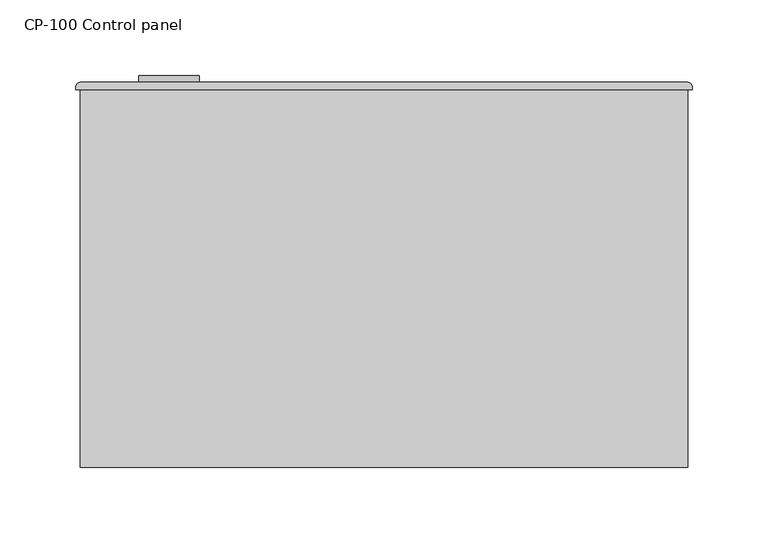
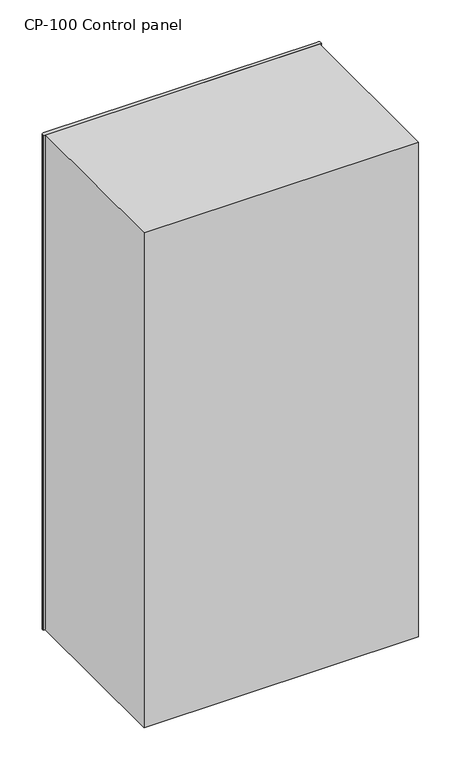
"""IFC4 building model written with IfcOpenShell, lengths in millimetres: proxy geometry, CP-100_Control_Panel_Wallmount_BIM_Model : CP-100 Control panel."""

from ifc_helpers import new_model, si_unit, point, frame, frame_2d, origin, place, context, project, spatial, polyline, circle_curve, trimmed, segment, composite_curve, outline, extrude, source, transform, mapped, element, save


def cp_100_control_panel_810ad4ae(model_context):
    return source(origin(), model_context, "Body", "SweptSolid", [
        extrude(outline(composite_curve([segment(trimmed(circle_curve(frame_2d((841.0, -16.7274277)), 20.0), [point((841.0, -36.7274277))], [point((841.0, 3.2725723))], False, "CARTESIAN"), True, "CONTINUOUS"), segment(trimmed(circle_curve(frame_2d((841.0, -16.7274277)), 20.0), [point((841.0, 3.2725723))], [point((841.0, -36.7274277))], False, "CARTESIAN"), True, "CONTINUOUS")], self_intersect=False), holes=[polyline([(848.2746144, -18.5031745), (848.2746144, -13.5031745), (833.2746144, -13.5031745), (833.2746144, -18.5031745), (848.2746144, -18.5031745)])]), frame((0.0, 324.2502207, 0.0), z_axis=(0.0, 1.0, 0.0), x_axis=(0.0, 0.0, 1.0)), (0.0, 0.0, 1.0), 4.5606129),
        extrude(outline(composite_curve([segment(trimmed(circle_curve(frame_2d((325.0, 321.4983329)), 3.0), [point((325.0, 324.4983329))], [point((328.0, 321.4983329))], False, "CARTESIAN"), True, "CONTINUOUS"), segment(polyline([(328.0, 321.4983329), (328.0, 319.616618), (-78.0, 319.616618), (-78.0, 321.4983329)]), True, "CONTINUOUS"), segment(trimmed(circle_curve(frame_2d((-75.0, 321.4983329)), 3.0), [point((-78.0, 321.4983329))], [point((-75.0, 324.4983329))], False, "CARTESIAN"), True, "CONTINUOUS"), segment(polyline([(-75.0, 324.4983329), (325.0, 324.4983329)]), True, "CONTINUOUS")], self_intersect=False)), frame((0.0, 0.0, 460.0), z_axis=(0.0, 0.0, 1.0), x_axis=(1.0, 0.0, 0.0)), (0.0, 0.0, 1.0), 762.0),
        extrude(outline(polyline([(325.0, 319.616618), (325.0, 70.4983329), (-75.0, 70.4983329), (-75.0, 319.616618), (325.0, 319.616618)])), frame((0.0, 0.0, 460.0), z_axis=(0.0, 0.0, 1.0), x_axis=(1.0, 0.0, 0.0)), (0.0, 0.0, 1.0), 762.0),
    ])


if __name__ == "__main__":
    model = new_model("IFC4")
    model_context = context("Model", 3, world=origin())
    ifc_project = project(units=[si_unit("LENGTHUNIT", "METRE", prefix="MILLI")], contexts=[model_context])
    site = spatial("IfcSite", under=ifc_project)
    building = spatial("IfcBuilding", under=site)
    placement = place(None, origin())
    cp_100_control_panel_shape = cp_100_control_panel_810ad4ae(model_context)
    element("IfcBuildingElementProxy", 1, Name="CP-100_Control_Panel_Wallmount_BIM_Model : CP-100 Control panel", ObjectType="CP-100_Control_Panel_Wallmount_BIM_Model : CP-100 Control panel", at=placement, inside=building, context=model_context, shape_type="MappedRepresentation", body=[
        mapped(cp_100_control_panel_shape, transform((0.0, 0.0, 0.0), x_axis=(1.0, 0.0, 0.0), y_axis=(0.0, 1.0, 0.0), z_axis=(0.0, 0.0, 1.0))),
    ])
    save(model, "model.ifc")
